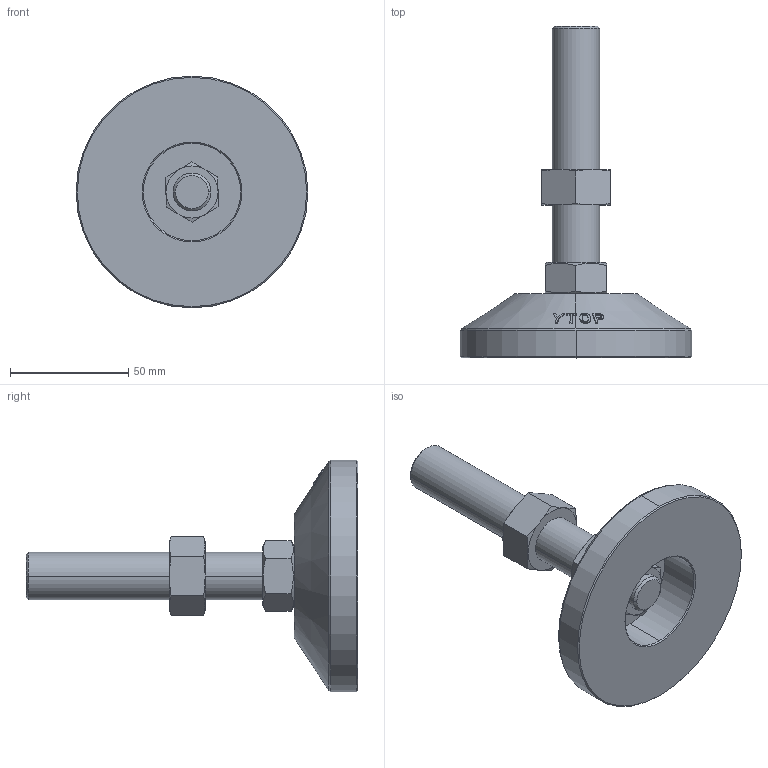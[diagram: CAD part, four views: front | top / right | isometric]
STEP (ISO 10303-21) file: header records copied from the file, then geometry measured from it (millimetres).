
FILE_DESCRIPTION (( 'STEP AP203' ), '1' );
FILE_NAME ('M-100-20100-S.STEP', '2020-09-10T07:01:23', ( '' ), ( '' ), 'SwSTEP 2.0', 'SolidWorks 2016', '' );
FILE_SCHEMA (( 'CONFIG_CONTROL_DESIGN' ));
Length unit declared in the file: millimetre
Products named in the file (5): M-100-1褐菜 ; 脚垫锁紧六角薄螺母M16; M-100-20100-S; 不锈钢双头螺杆M20系列_M20X100; 脚垫调节六角螺母M20
Assembly tree (4 placements, depth 2):
  M-100-20100-S
    M-100-1褐菜 
    不锈钢双头螺杆M20系列_M20X100
    脚垫锁紧六角薄螺母M16
    脚垫调节六角螺母M20
Bounding box: 98 x 140.3 x 98 mm (x, y, z)
Volume: 185179.6 mm3; surface area: 36093.7 mm2
Topology: 4 solids, 4 shells, 143 faces, 333 edges, 206 vertices
Faces by surface type: cone 62, bspline 38, plane 29, cylinder 14
Entity records: 8896 total; most frequent: CARTESIAN_POINT 5525, ORIENTED_EDGE 666, DIRECTION 457, EDGE_CURVE 333, VERTEX_POINT 206, AXIS2_PLACEMENT_3D 196, B_SPLINE_CURVE_WITH_KNOTS 184, EDGE_LOOP 157
